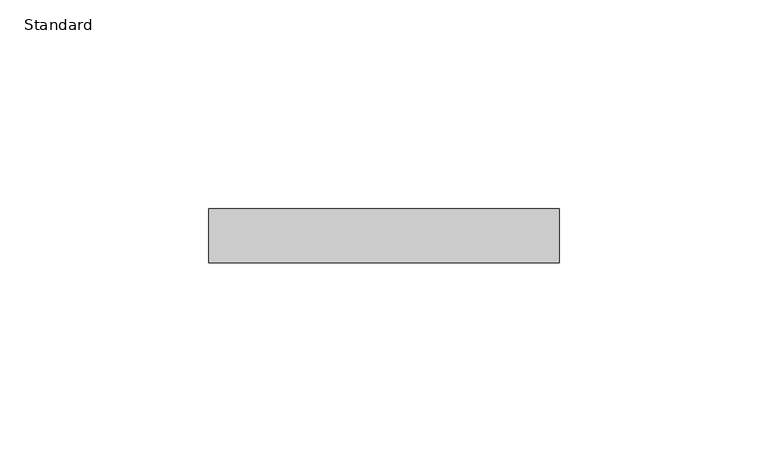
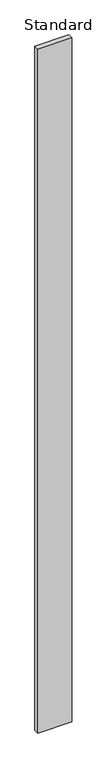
"""IFC4 building model written with IfcOpenShell, lengths in millimetres: furniture geometry, X_Partition-Compact Laminate-Duracube-Rectangular : Standard."""

from ifc_helpers import new_model, si_unit, frame, origin, place, context, project, spatial, polyline, outline, extrude, source, transform, mapped, element, save


def standard_478cbe62(model_context):
    return source(origin(), model_context, "Body", "SweptSolid", [
        extrude(outline(polyline([(86.7003264, 0.0), (86.7003264, -13.0), (2.7003264, -13.0), (2.7003264, 0.0), (86.7003264, 0.0)])), frame((0.0, 0.0, 200.0), z_axis=(0.0, 0.0, 1.0), x_axis=(1.0, 0.0, 0.0)), (0.0, 0.0, 1.0), 1799.0),
    ])


if __name__ == "__main__":
    model = new_model("IFC4")
    model_context = context("Model", 3, world=origin())
    ifc_project = project(units=[si_unit("LENGTHUNIT", "METRE", prefix="MILLI")], contexts=[model_context])
    site = spatial("IfcSite", under=ifc_project)
    building = spatial("IfcBuilding", under=site)
    placement = place(None, origin())
    standard_shape = standard_478cbe62(model_context)
    element("IfcFurniture", 1, ObjectType="X_Partition-Compact Laminate-Duracube-Rectangular : Standard", at=placement, inside=building, context=model_context, shape_type="MappedRepresentation", body=[
        mapped(standard_shape, transform((0.0, 0.0, 0.0), x_axis=(1.0, 0.0, 0.0), y_axis=(0.0, 1.0, 0.0), z_axis=(0.0, 0.0, 1.0))),
    ])
    save(model, "model.ifc")
